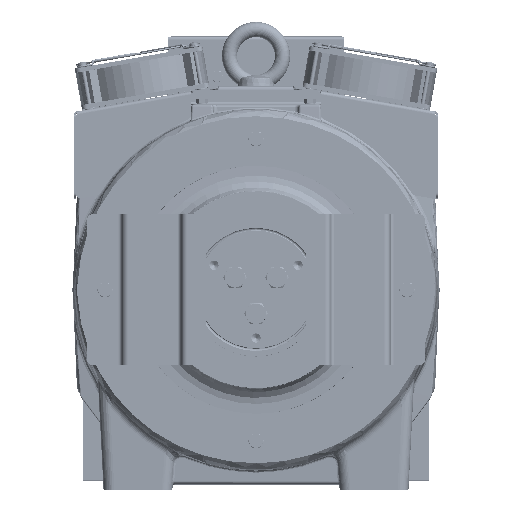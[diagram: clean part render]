
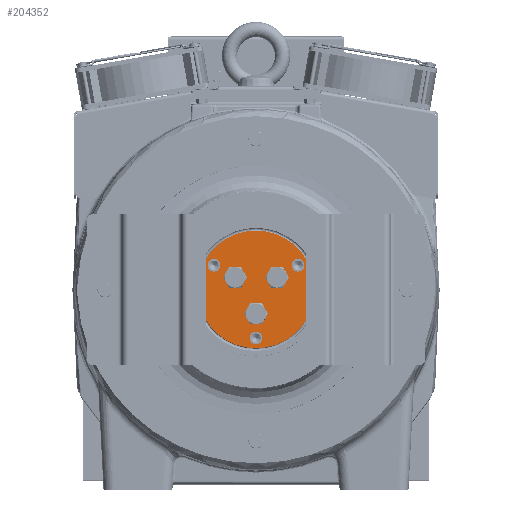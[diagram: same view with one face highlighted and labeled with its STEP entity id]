
A CAD part, top view. The second image highlights one B-rep face of the part: STEP entity #204352.
In plain terms, the highlighted planar face has unit normal (0, 0, 1) as drawn and (0, -1, 0) by its records, which use the part's own axes.
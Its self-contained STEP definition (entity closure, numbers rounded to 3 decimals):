
#204009=CARTESIAN_POINT('',(0.,0.,
0.));
#204010=DIRECTION('',(0.,-1.,0.));
#204011=DIRECTION('',(-1.,0.,0.));
#204012=AXIS2_PLACEMENT_3D('',#204009,#204010,#204011);
#204014=CARTESIAN_POINT('',(0.,0.,
0.));
#204015=DIRECTION('',(0.,-1.,0.));
#204016=DIRECTION('',(1.,0.,0.));
#204017=AXIS2_PLACEMENT_3D('',#204014,#204015,#204016);
#204019=CARTESIAN_POINT('',(0.,0.,-22.5));
#204020=DIRECTION('',(0.,-1.,0.));
#204021=DIRECTION('',(1.,0.,0.));
#204022=AXIS2_PLACEMENT_3D('',#204019,#204020,#204021);
#204024=CARTESIAN_POINT('',(0.,0.,-22.5));
#204025=DIRECTION('',(0.,-1.,0.));
#204026=DIRECTION('',(-1.,0.,0.));
#204027=AXIS2_PLACEMENT_3D('',#204024,#204025,#204026);
#204029=CARTESIAN_POINT('',(19.486,0.,11.25));
#204030=DIRECTION('',(0.,-1.,0.));
#204031=DIRECTION('',(-0.5,0.,0.866));
#204032=AXIS2_PLACEMENT_3D('',#204029,#204030,#204031);
#204034=CARTESIAN_POINT('',(19.486,0.,11.25));
#204035=DIRECTION('',(0.,-1.,0.));
#204036=DIRECTION('',(0.5,0.,-0.866));
#204037=AXIS2_PLACEMENT_3D('',#204034,#204035,#204036);
#204039=CARTESIAN_POINT('',(-19.486,0.,11.25));
#204040=DIRECTION('',(0.,-1.,0.));
#204041=DIRECTION('',(-0.5,0.,-0.866));
#204042=AXIS2_PLACEMENT_3D('',#204039,#204040,#204041);
#204044=CARTESIAN_POINT('',(-19.486,0.,11.25));
#204045=DIRECTION('',(0.,-1.,0.));
#204046=DIRECTION('',(0.5,0.,0.866));
#204047=AXIS2_PLACEMENT_3D('',#204044,#204045,#204046);
#204049=CARTESIAN_POINT('',(0.,0.,-45.));
#204050=DIRECTION('',(0.,-1.,0.));
#204051=DIRECTION('',(1.,0.,0.));
#204052=AXIS2_PLACEMENT_3D('',#204049,#204050,#204051);
#204054=CARTESIAN_POINT('',(0.,0.,-45.));
#204055=DIRECTION('',(0.,-1.,0.));
#204056=DIRECTION('',(-1.,0.,0.));
#204057=AXIS2_PLACEMENT_3D('',#204054,#204055,#204056);
#204059=CARTESIAN_POINT('',(38.971,0.,22.5));
#204060=DIRECTION('',(0.,-1.,0.));
#204061=DIRECTION('',(-0.5,0.,0.866));
#204062=AXIS2_PLACEMENT_3D('',#204059,#204060,#204061);
#204064=CARTESIAN_POINT('',(38.971,0.,22.5));
#204065=DIRECTION('',(0.,-1.,0.));
#204066=DIRECTION('',(0.5,0.,-0.866));
#204067=AXIS2_PLACEMENT_3D('',#204064,#204065,#204066);
#204069=CARTESIAN_POINT('',(-38.971,0.,22.5));
#204070=DIRECTION('',(0.,-1.,0.));
#204071=DIRECTION('',(-0.5,0.,-0.866));
#204072=AXIS2_PLACEMENT_3D('',#204069,#204070,#204071);
#204074=CARTESIAN_POINT('',(-38.971,0.,22.5));
#204075=DIRECTION('',(0.,-1.,0.));
#204076=DIRECTION('',(0.5,0.,0.866));
#204077=AXIS2_PLACEMENT_3D('',#204074,#204075,#204076);
#204253=CARTESIAN_POINT('',(6.5,0.,-22.5));
#204254=CARTESIAN_POINT('',(-6.5,0.,-22.5));
#204255=VERTEX_POINT('',#204253);
#204256=VERTEX_POINT('',#204254);
#204261=CARTESIAN_POINT('',(16.236,0.,16.879));
#204262=CARTESIAN_POINT('',(22.736,0.,5.621));
#204263=VERTEX_POINT('',#204261);
#204264=VERTEX_POINT('',#204262);
#204269=CARTESIAN_POINT('',(-22.736,0.,5.621));
#204270=CARTESIAN_POINT('',(-16.236,0.,16.879));
#204271=VERTEX_POINT('',#204269);
#204272=VERTEX_POINT('',#204270);
#204277=CARTESIAN_POINT('',(6.,0.,-45.));
#204278=CARTESIAN_POINT('',(-6.,0.,-45.));
#204279=VERTEX_POINT('',#204277);
#204280=VERTEX_POINT('',#204278);
#204285=CARTESIAN_POINT('',(35.971,0.,27.696));
#204286=CARTESIAN_POINT('',(41.971,0.,17.304));
#204287=VERTEX_POINT('',#204285);
#204288=VERTEX_POINT('',#204286);
#204293=CARTESIAN_POINT('',(-41.971,0.,17.304));
#204294=CARTESIAN_POINT('',(-35.971,0.,27.696));
#204295=VERTEX_POINT('',#204293);
#204296=VERTEX_POINT('',#204294);
#204301=CARTESIAN_POINT('',(-54.5,0.,0.));
#204302=CARTESIAN_POINT('',(54.5,0.,0.));
#204303=VERTEX_POINT('',#204301);
#204304=VERTEX_POINT('',#204302);
#204305=CARTESIAN_POINT('',(0.,0.,0.));
#204306=DIRECTION('',(0.,-1.,0.));
#204307=DIRECTION('',(-1.,0.,0.));
#204308=AXIS2_PLACEMENT_3D('',#204305,#204306,#204307);
#204309=PLANE('',#204308);
#204311=ORIENTED_EDGE('',*,*,#204310,.F.);
#204313=ORIENTED_EDGE('',*,*,#204312,.F.);
#204314=EDGE_LOOP('',(#204311,#204313));
#204315=FACE_OUTER_BOUND('',#204314,.F.);
#204317=ORIENTED_EDGE('',*,*,#204316,.T.);
#204319=ORIENTED_EDGE('',*,*,#204318,.T.);
#204320=EDGE_LOOP('',(#204317,#204319));
#204321=FACE_BOUND('',#204320,.F.);
#204323=ORIENTED_EDGE('',*,*,#204322,.T.);
#204325=ORIENTED_EDGE('',*,*,#204324,.T.);
#204326=EDGE_LOOP('',(#204323,#204325));
#204327=FACE_BOUND('',#204326,.F.);
#204329=ORIENTED_EDGE('',*,*,#204328,.T.);
#204331=ORIENTED_EDGE('',*,*,#204330,.T.);
#204332=EDGE_LOOP('',(#204329,#204331));
#204333=FACE_BOUND('',#204332,.F.);
#204335=ORIENTED_EDGE('',*,*,#204334,.T.);
#204337=ORIENTED_EDGE('',*,*,#204336,.T.);
#204338=EDGE_LOOP('',(#204335,#204337));
#204339=FACE_BOUND('',#204338,.F.);
#204341=ORIENTED_EDGE('',*,*,#204340,.T.);
#204343=ORIENTED_EDGE('',*,*,#204342,.T.);
#204344=EDGE_LOOP('',(#204341,#204343));
#204345=FACE_BOUND('',#204344,.F.);
#204347=ORIENTED_EDGE('',*,*,#204346,.T.);
#204349=ORIENTED_EDGE('',*,*,#204348,.T.);
#204350=EDGE_LOOP('',(#204347,#204349));
#204351=FACE_BOUND('',#204350,.F.);
#204352=ADVANCED_FACE('',(#204315,#204321,#204327,#204333,#204339,#204345,
#204351),#204309,.T.);
#204013=CIRCLE('',#204012,54.5);
#204018=CIRCLE('',#204017,54.5);
#204023=CIRCLE('',#204022,6.5);
#204028=CIRCLE('',#204027,6.5);
#204033=CIRCLE('',#204032,6.5);
#204038=CIRCLE('',#204037,6.5);
#204043=CIRCLE('',#204042,6.5);
#204048=CIRCLE('',#204047,6.5);
#204053=CIRCLE('',#204052,6.);
#204058=CIRCLE('',#204057,6.);
#204063=CIRCLE('',#204062,6.);
#204068=CIRCLE('',#204067,6.);
#204073=CIRCLE('',#204072,6.);
#204078=CIRCLE('',#204077,6.);
#204310=EDGE_CURVE('',#204303,#204304,#204013,.T.);
#204312=EDGE_CURVE('',#204304,#204303,#204018,.T.);
#204316=EDGE_CURVE('',#204255,#204256,#204023,.T.);
#204318=EDGE_CURVE('',#204256,#204255,#204028,.T.);
#204322=EDGE_CURVE('',#204263,#204264,#204033,.T.);
#204324=EDGE_CURVE('',#204264,#204263,#204038,.T.);
#204328=EDGE_CURVE('',#204271,#204272,#204043,.T.);
#204330=EDGE_CURVE('',#204272,#204271,#204048,.T.);
#204334=EDGE_CURVE('',#204279,#204280,#204053,.T.);
#204336=EDGE_CURVE('',#204280,#204279,#204058,.T.);
#204340=EDGE_CURVE('',#204287,#204288,#204063,.T.);
#204342=EDGE_CURVE('',#204288,#204287,#204068,.T.);
#204346=EDGE_CURVE('',#204295,#204296,#204073,.T.);
#204348=EDGE_CURVE('',#204296,#204295,#204078,.T.);
